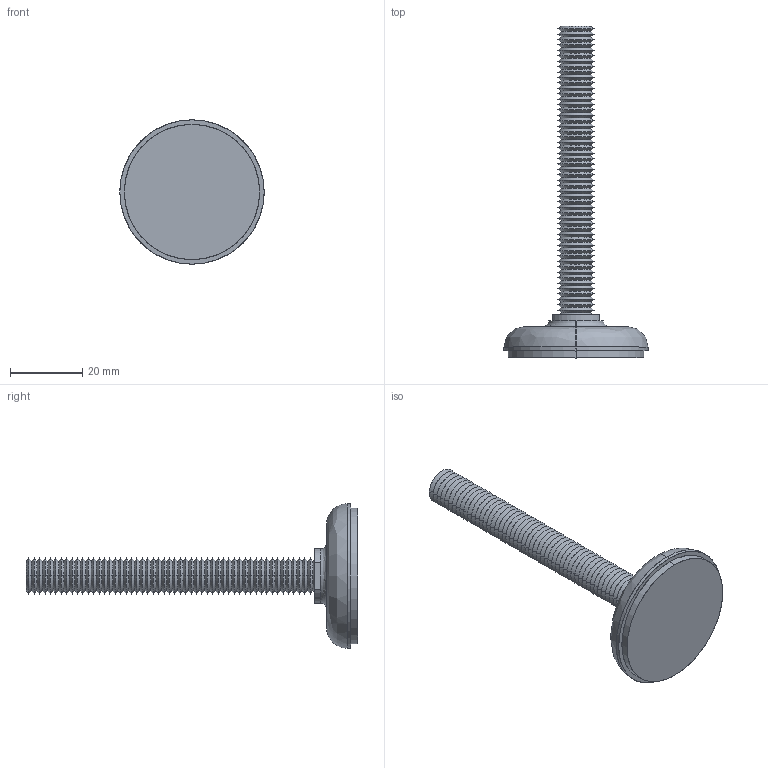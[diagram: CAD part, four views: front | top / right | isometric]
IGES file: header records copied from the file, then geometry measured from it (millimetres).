
Start section: SolidWorks IGES file using analytic representation for surfaces
Global section: file name: C:\Documents and Settings\IANO\Desktop\Temp File\Process pending\EXISTING\34780_v2\34780_v2_20170626_IGES\34780.W0104.igs; native system: SolidWorks 2009; preprocessor: SolidWorks 2009; author: IANO; date: 170626.122214; units: millimetre
Bounding box: 40 x 92 x 40 mm (x, y, z)
Surface area: 13389 mm2 (no closed solid volume)
Topology: 0 solids, 0 shells, 276 faces, 2050 edges, 2050 vertices
Faces by surface type: revolution 248, bspline 28
